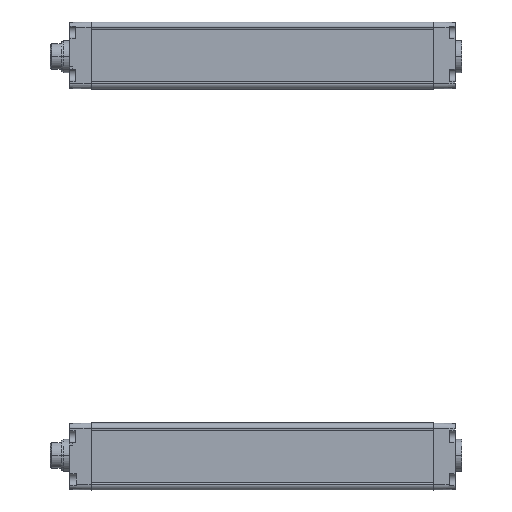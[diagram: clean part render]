
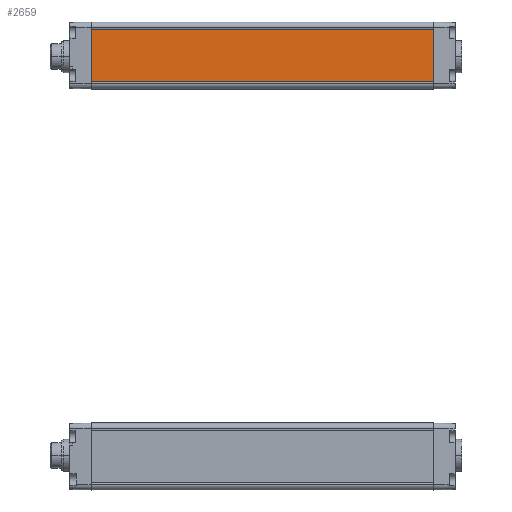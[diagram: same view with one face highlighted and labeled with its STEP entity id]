
A CAD part, front view. The second image highlights one B-rep face of the part: STEP entity #2659.
In plain terms, the highlighted planar face has unit normal (0, -1, 0).
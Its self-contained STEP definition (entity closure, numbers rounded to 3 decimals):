
#154=DIRECTION('',(0.,0.,-1.));
#155=VECTOR('',#154,24.);
#156=CARTESIAN_POINT('',(0.,-15.15,12.));
#157=LINE('',#156,#155);
#412=DIRECTION('',(0.,0.,-1.));
#413=VECTOR('',#412,24.);
#414=CARTESIAN_POINT('',(160.,-15.15,12.));
#415=LINE('',#414,#413);
#880=DIRECTION('',(1.,0.,0.));
#881=VECTOR('',#880,160.);
#882=CARTESIAN_POINT('',(0.,-15.15,12.));
#883=LINE('',#882,#881);
#884=DIRECTION('',(1.,0.,0.));
#885=VECTOR('',#884,160.);
#886=CARTESIAN_POINT('',(0.,-15.15,-12.));
#887=LINE('',#886,#885);
#1298=CARTESIAN_POINT('',(0.,-15.15,12.));
#1299=CARTESIAN_POINT('',(160.,-15.15,12.));
#1300=VERTEX_POINT('',#1298);
#1301=VERTEX_POINT('',#1299);
#1310=CARTESIAN_POINT('',(0.,-15.15,-12.));
#1311=CARTESIAN_POINT('',(160.,-15.15,-12.));
#1312=VERTEX_POINT('',#1310);
#1313=VERTEX_POINT('',#1311);
#2646=CARTESIAN_POINT('',(0.,-15.15,15.65));
#2647=DIRECTION('',(0.,-1.,0.));
#2648=DIRECTION('',(0.,0.,-1.));
#2649=AXIS2_PLACEMENT_3D('',#2646,#2647,#2648);
#2650=PLANE('',#2649);
#2652=ORIENTED_EDGE('',*,*,#2651,.T.);
#2653=ORIENTED_EDGE('',*,*,#1938,.T.);
#2655=ORIENTED_EDGE('',*,*,#2654,.F.);
#2656=ORIENTED_EDGE('',*,*,#1671,.F.);
#2657=EDGE_LOOP('',(#2652,#2653,#2655,#2656));
#2658=FACE_OUTER_BOUND('',#2657,.F.);
#2659=ADVANCED_FACE('',(#2658),#2650,.T.);
#1671=EDGE_CURVE('',#1300,#1312,#157,.T.);
#1938=EDGE_CURVE('',#1301,#1313,#415,.T.);
#2651=EDGE_CURVE('',#1300,#1301,#883,.T.);
#2654=EDGE_CURVE('',#1312,#1313,#887,.T.);
